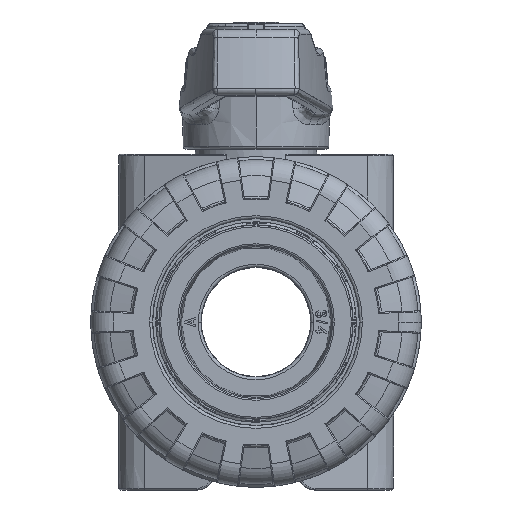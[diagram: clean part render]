
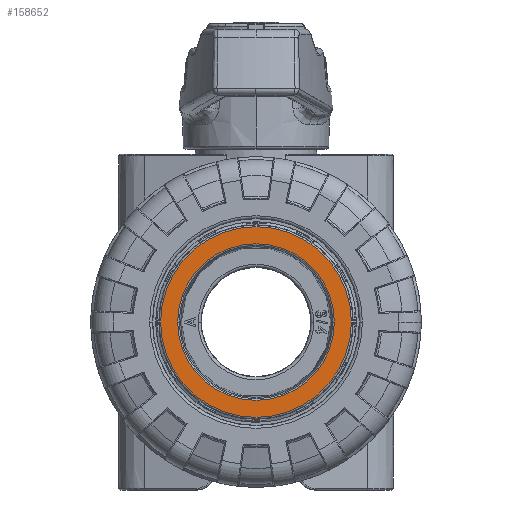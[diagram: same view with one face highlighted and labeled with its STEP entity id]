
A CAD part, left-side view. The second image highlights one B-rep face of the part: STEP entity #158652.
In plain terms, the highlighted planar face has unit normal (-1, 0, 0).
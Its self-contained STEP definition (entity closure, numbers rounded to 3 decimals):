
#151379 = EDGE_CURVE('',#151380,#151382,#151384,.T.);
#151380 = VERTEX_POINT('',#151381);
#151381 = CARTESIAN_POINT('',(-52.364,-3.126,-47.464)
  );
#151382 = VERTEX_POINT('',#151383);
#151383 = CARTESIAN_POINT('',(-52.364,-4.228,-47.464)
  );
#151384 = SURFACE_CURVE('',#151385,(#151390,#151402),.PCURVE_S1.);
#151385 = CIRCLE('',#151386,0.551);
#151386 = AXIS2_PLACEMENT_3D('',#151387,#151388,#151389);
#151387 = CARTESIAN_POINT('',(-52.364,-3.677,-47.464)
  );
#151388 = DIRECTION('',(1.,0.,0.));
#151389 = DIRECTION('',(0.,-1.,0.));
#151390 = PCURVE('',#151391,#151396);
#151391 = TOROIDAL_SURFACE('',#151392,0.551,0.012);
#151392 = AXIS2_PLACEMENT_3D('',#151393,#151394,#151395);
#151393 = CARTESIAN_POINT('',(-52.353,-3.677,-47.464)
  );
#151394 = DIRECTION('',(-1.,0.,0.));
#151395 = DIRECTION('',(0.,-1.,0.));
#151396 = DEFINITIONAL_REPRESENTATION('',(#151397),#151401);
#151397 = LINE('',#151398,#151399);
#151398 = CARTESIAN_POINT('',(6.283,1.571));
#151399 = VECTOR('',#151400,1.);
#151400 = DIRECTION('',(-1.,0.));
#151401 = ( GEOMETRIC_REPRESENTATION_CONTEXT(2) 
PARAMETRIC_REPRESENTATION_CONTEXT() REPRESENTATION_CONTEXT('2D SPACE',''
  ) );
#151402 = PCURVE('',#151403,#151408);
#151403 = PLANE('',#151404);
#151404 = AXIS2_PLACEMENT_3D('',#151405,#151406,#151407);
#151405 = CARTESIAN_POINT('',(-52.364,-3.677,-46.934)
  );
#151406 = DIRECTION('',(-1.,0.,0.));
#151407 = DIRECTION('',(0.,-1.,0.));
#151408 = DEFINITIONAL_REPRESENTATION('',(#151409),#151417);
#151409 = ( BOUNDED_CURVE() B_SPLINE_CURVE(2,(#151410,#151411,#151412,
    #151413,#151414,#151415,#151416),.UNSPECIFIED.,.T.,.F.) 
B_SPLINE_CURVE_WITH_KNOTS((1,2,2,2,2,1),(-2.094,0.,
    2.094,4.189,6.283,8.378),
.UNSPECIFIED.) CURVE() GEOMETRIC_REPRESENTATION_ITEM() 
RATIONAL_B_SPLINE_CURVE((1.,0.5,1.,0.5,1.,0.5,1.)) REPRESENTATION_ITEM(
  '') );
#151410 = CARTESIAN_POINT('',(0.551,-0.53));
#151411 = CARTESIAN_POINT('',(0.551,-1.484));
#151412 = CARTESIAN_POINT('',(-0.275,-1.007));
#151413 = CARTESIAN_POINT('',(-1.102,-0.53));
#151414 = CARTESIAN_POINT('',(-0.275,-0.053));
#151415 = CARTESIAN_POINT('',(0.551,0.424));
#151416 = CARTESIAN_POINT('',(0.551,-0.53));
#151417 = ( GEOMETRIC_REPRESENTATION_CONTEXT(2) 
PARAMETRIC_REPRESENTATION_CONTEXT() REPRESENTATION_CONTEXT('2D SPACE',''
  ) );
#151436 = TOROIDAL_SURFACE('',#151437,0.551,0.012);
#151437 = AXIS2_PLACEMENT_3D('',#151438,#151439,#151440);
#151438 = CARTESIAN_POINT('',(-52.353,-3.677,-47.464)
  );
#151439 = DIRECTION('',(-1.,0.,0.));
#151440 = DIRECTION('',(0.,-1.,0.));
#151617 = TOROIDAL_SURFACE('',#151618,0.671,0.012);
#151618 = AXIS2_PLACEMENT_3D('',#151619,#151620,#151621);
#151619 = CARTESIAN_POINT('',(-52.353,-3.677,-47.464)
  );
#151620 = DIRECTION('',(-1.,0.,0.));
#151621 = DIRECTION('',(0.,-1.,0.));
#151642 = VERTEX_POINT('',#151643);
#151643 = CARTESIAN_POINT('',(-52.364,-3.005,-47.464)
  );
#151658 = TOROIDAL_SURFACE('',#151659,0.671,0.012);
#151659 = AXIS2_PLACEMENT_3D('',#151660,#151661,#151662);
#151660 = CARTESIAN_POINT('',(-52.353,-3.677,-47.464)
  );
#151661 = DIRECTION('',(-1.,0.,0.));
#151662 = DIRECTION('',(0.,-1.,0.));
#151670 = EDGE_CURVE('',#151671,#151642,#151673,.T.);
#151671 = VERTEX_POINT('',#151672);
#151672 = CARTESIAN_POINT('',(-52.364,-4.348,-47.464)
  );
#151673 = SURFACE_CURVE('',#151674,(#151679,#151686),.PCURVE_S1.);
#151674 = CIRCLE('',#151675,0.671);
#151675 = AXIS2_PLACEMENT_3D('',#151676,#151677,#151678);
#151676 = CARTESIAN_POINT('',(-52.364,-3.677,-47.464)
  );
#151677 = DIRECTION('',(-1.,0.,0.));
#151678 = DIRECTION('',(0.,-1.,0.));
#151679 = PCURVE('',#151617,#151680);
#151680 = DEFINITIONAL_REPRESENTATION('',(#151681),#151685);
#151681 = LINE('',#151682,#151683);
#151682 = CARTESIAN_POINT('',(0.,1.571));
#151683 = VECTOR('',#151684,1.);
#151684 = DIRECTION('',(1.,0.));
#151685 = ( GEOMETRIC_REPRESENTATION_CONTEXT(2) 
PARAMETRIC_REPRESENTATION_CONTEXT() REPRESENTATION_CONTEXT('2D SPACE',''
  ) );
#151686 = PCURVE('',#151403,#151687);
#151687 = DEFINITIONAL_REPRESENTATION('',(#151688),#151692);
#151688 = CIRCLE('',#151689,0.671);
#151689 = AXIS2_PLACEMENT_2D('',#151690,#151691);
#151690 = CARTESIAN_POINT('',(0.,-0.53));
#151691 = DIRECTION('',(1.,0.));
#151692 = ( GEOMETRIC_REPRESENTATION_CONTEXT(2) 
PARAMETRIC_REPRESENTATION_CONTEXT() REPRESENTATION_CONTEXT('2D SPACE',''
  ) );
#158652 = ADVANCED_FACE('',(#158653,#158682),#151403,.T.);
#158653 = FACE_BOUND('',#158654,.T.);
#158654 = EDGE_LOOP('',(#158655,#158681));
#158655 = ORIENTED_EDGE('',*,*,#158656,.T.);
#158656 = EDGE_CURVE('',#151382,#151380,#158657,.T.);
#158657 = SURFACE_CURVE('',#158658,(#158663,#158674),.PCURVE_S1.);
#158658 = CIRCLE('',#158659,0.551);
#158659 = AXIS2_PLACEMENT_3D('',#158660,#158661,#158662);
#158660 = CARTESIAN_POINT('',(-52.364,-3.677,-47.464)
  );
#158661 = DIRECTION('',(1.,0.,0.));
#158662 = DIRECTION('',(0.,-1.,0.));
#158663 = PCURVE('',#151403,#158664);
#158664 = DEFINITIONAL_REPRESENTATION('',(#158665),#158673);
#158665 = ( BOUNDED_CURVE() B_SPLINE_CURVE(2,(#158666,#158667,#158668,
    #158669,#158670,#158671,#158672),.UNSPECIFIED.,.T.,.F.) 
B_SPLINE_CURVE_WITH_KNOTS((1,2,2,2,2,1),(-2.094,0.,
    2.094,4.189,6.283,8.378),
.UNSPECIFIED.) CURVE() GEOMETRIC_REPRESENTATION_ITEM() 
RATIONAL_B_SPLINE_CURVE((1.,0.5,1.,0.5,1.,0.5,1.)) REPRESENTATION_ITEM(
  '') );
#158666 = CARTESIAN_POINT('',(0.551,-0.53));
#158667 = CARTESIAN_POINT('',(0.551,-1.484));
#158668 = CARTESIAN_POINT('',(-0.275,-1.007));
#158669 = CARTESIAN_POINT('',(-1.102,-0.53));
#158670 = CARTESIAN_POINT('',(-0.275,-0.053));
#158671 = CARTESIAN_POINT('',(0.551,0.424));
#158672 = CARTESIAN_POINT('',(0.551,-0.53));
#158673 = ( GEOMETRIC_REPRESENTATION_CONTEXT(2) 
PARAMETRIC_REPRESENTATION_CONTEXT() REPRESENTATION_CONTEXT('2D SPACE',''
  ) );
#158674 = PCURVE('',#151436,#158675);
#158675 = DEFINITIONAL_REPRESENTATION('',(#158676),#158680);
#158676 = LINE('',#158677,#158678);
#158677 = CARTESIAN_POINT('',(6.283,1.571));
#158678 = VECTOR('',#158679,1.);
#158679 = DIRECTION('',(-1.,0.));
#158680 = ( GEOMETRIC_REPRESENTATION_CONTEXT(2) 
PARAMETRIC_REPRESENTATION_CONTEXT() REPRESENTATION_CONTEXT('2D SPACE',''
  ) );
#158681 = ORIENTED_EDGE('',*,*,#151379,.T.);
#158682 = FACE_BOUND('',#158683,.T.);
#158683 = EDGE_LOOP('',(#158684,#158685));
#158684 = ORIENTED_EDGE('',*,*,#151670,.T.);
#158685 = ORIENTED_EDGE('',*,*,#158686,.T.);
#158686 = EDGE_CURVE('',#151642,#151671,#158687,.T.);
#158687 = SURFACE_CURVE('',#158688,(#158693,#158700),.PCURVE_S1.);
#158688 = CIRCLE('',#158689,0.671);
#158689 = AXIS2_PLACEMENT_3D('',#158690,#158691,#158692);
#158690 = CARTESIAN_POINT('',(-52.364,-3.677,-47.464)
  );
#158691 = DIRECTION('',(-1.,0.,0.));
#158692 = DIRECTION('',(0.,-1.,0.));
#158693 = PCURVE('',#151403,#158694);
#158694 = DEFINITIONAL_REPRESENTATION('',(#158695),#158699);
#158695 = CIRCLE('',#158696,0.671);
#158696 = AXIS2_PLACEMENT_2D('',#158697,#158698);
#158697 = CARTESIAN_POINT('',(0.,-0.53));
#158698 = DIRECTION('',(1.,0.));
#158699 = ( GEOMETRIC_REPRESENTATION_CONTEXT(2) 
PARAMETRIC_REPRESENTATION_CONTEXT() REPRESENTATION_CONTEXT('2D SPACE',''
  ) );
#158700 = PCURVE('',#151658,#158701);
#158701 = DEFINITIONAL_REPRESENTATION('',(#158702),#158706);
#158702 = LINE('',#158703,#158704);
#158703 = CARTESIAN_POINT('',(0.,1.571));
#158704 = VECTOR('',#158705,1.);
#158705 = DIRECTION('',(1.,0.));
#158706 = ( GEOMETRIC_REPRESENTATION_CONTEXT(2) 
PARAMETRIC_REPRESENTATION_CONTEXT() REPRESENTATION_CONTEXT('2D SPACE',''
  ) );
